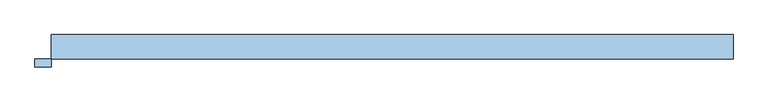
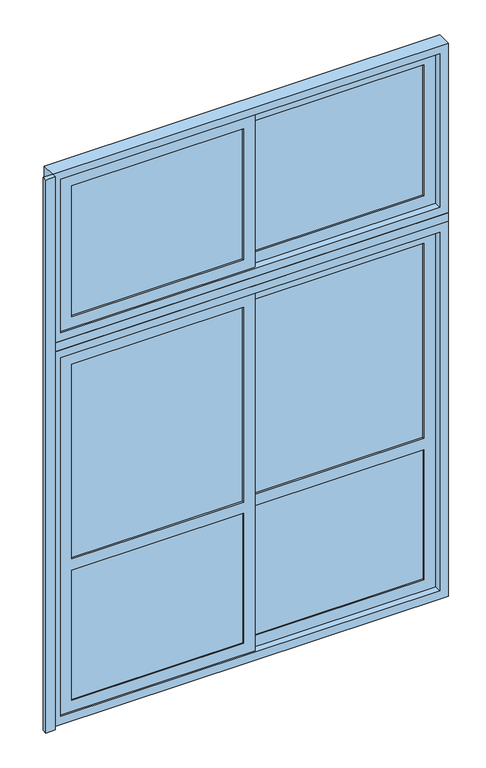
"""IFC4 building model written with IfcOpenShell, lengths in millimetres: window geometry, A7 Ventana_Corrediza_PC_2 hojas : A7.2 Ventana_Corrediza_PC_2 hojas 210x310."""

from ifc_helpers import new_model, si_unit, frame, origin, origin_with_axes, place, context, project, spatial, polyline, outline, extrude, source, transform, mapped, element, save


def window_62d1e696(model_context):
    return source(origin(), model_context, "Body", "SweptSolid", [
        extrude(outline(polyline([(-31.5, 28.0), (-942.0, 28.0), (-942.0, 44.0), (-31.5, 44.0), (-31.5, 28.0)])), frame((0.0, 0.0, 108.0), z_axis=(0.0, 0.0, 1.0), x_axis=(1.0, 0.0, 0.0)), (0.0, 0.0, 1.0), 728.0),
        extrude(outline(polyline([(942.0, 56.0), (31.5, 56.0), (31.5, 72.0), (942.0, 72.0), (942.0, 56.0)])), frame((0.0, 0.0, 108.0), z_axis=(0.0, 0.0, 1.0), x_axis=(1.0, 0.0, 0.0)), (0.0, 0.0, 1.0), 728.0),
        extrude(outline(polyline([(-31.5, 31.5769719), (-942.0, 31.5769719), (-942.0, 40.4230281), (-31.5, 40.4230281), (-31.5, 31.5769719)])), frame((0.0, 0.0, 2258.0), z_axis=(0.0, 0.0, 1.0), x_axis=(1.0, 0.0, 0.0)), (0.0, 0.0, 1.0), 734.0),
        extrude(outline(polyline([(-31.5, 31.5769719), (-942.0, 31.5769719), (-942.0, 40.4230281), (-31.5, 40.4230281), (-31.5, 31.5769719)])), frame((0.0, 0.0, 900.0), z_axis=(0.0, 0.0, 1.0), x_axis=(1.0, 0.0, 0.0)), (0.0, 0.0, 1.0), 1092.0),
        extrude(outline(polyline([(942.0, 59.5769719), (31.5, 59.5769719), (31.5, 68.4230281), (942.0, 68.4230281), (942.0, 59.5769719)])), frame((0.0, 0.0, 2258.0), z_axis=(0.0, 0.0, 1.0), x_axis=(1.0, 0.0, 0.0)), (0.0, 0.0, 1.0), 734.0),
        extrude(outline(polyline([(942.0, 59.5769719), (31.5, 59.5769719), (31.5, 68.4230281), (942.0, 68.4230281), (942.0, 59.5769719)])), frame((0.0, 0.0, 900.0), z_axis=(0.0, 0.0, 1.0), x_axis=(1.0, 0.0, 0.0)), (0.0, 0.0, 1.0), 1092.0),
        extrude(outline(polyline([(45.0, -1005.0), (45.0, 31.5), (2055.0, 31.5), (2055.0, -1005.0), (45.0, -1005.0)]), holes=[polyline([(900.0, -942.0), (1992.0, -942.0), (1992.0, -31.5), (900.0, -31.5), (900.0, -942.0)]), polyline([(108.0, -942.0), (836.0, -942.0), (836.0, -31.5), (108.0, -31.5), (108.0, -942.0)])]), frame((0.0, 22.0, 0.0), z_axis=(0.0, 1.0, 0.0), x_axis=(0.0, 0.0, 1.0)), (0.0, 0.0, 1.0), 28.0),
        extrude(outline(polyline([(3055.0, -1005.0), (2195.0, -1005.0), (2195.0, 31.5), (3055.0, 31.5), (3055.0, -1005.0)]), holes=[polyline([(2258.0, -942.0), (2992.0, -942.0), (2992.0, -31.5), (2258.0, -31.5), (2258.0, -942.0)])]), frame((0.0, 22.0, 0.0), z_axis=(0.0, 1.0, 0.0), x_axis=(0.0, 0.0, 1.0)), (0.0, 0.0, 1.0), 28.0),
        extrude(outline(polyline([(2055.0, 1005.0), (2055.0, -31.5), (45.0, -31.5), (45.0, 1005.0), (2055.0, 1005.0)]), holes=[polyline([(1992.0, 31.5), (1992.0, 942.0), (900.0, 942.0), (900.0, 31.5), (1992.0, 31.5)]), polyline([(836.0, 31.5), (836.0, 942.0), (108.0, 942.0), (108.0, 31.5), (836.0, 31.5)])]), frame((0.0, 50.0, 0.0), z_axis=(0.0, 1.0, 0.0), x_axis=(0.0, 0.0, 1.0)), (0.0, 0.0, 1.0), 28.0),
        extrude(outline(polyline([(2195.0, -31.5), (2195.0, 1005.0), (3055.0, 1005.0), (3055.0, -31.5), (2195.0, -31.5)]), holes=[polyline([(2992.0, 31.5), (2992.0, 942.0), (2258.0, 942.0), (2258.0, 31.5), (2992.0, 31.5)])]), frame((0.0, 50.0, 0.0), z_axis=(0.0, 1.0, 0.0), x_axis=(0.0, 0.0, 1.0)), (0.0, 0.0, 1.0), 28.0),
        extrude(outline(polyline([(2100.0, -1050.0), (0.0, -1050.0), (0.0, 1050.0), (2100.0, 1050.0), (2100.0, -1050.0)]), holes=[polyline([(2055.0, -1005.0), (2055.0, 1005.0), (45.0, 1005.0), (45.0, -1005.0), (2055.0, -1005.0)])]), frame((0.0, 12.5, 0.0), z_axis=(0.0, 1.0, 0.0), x_axis=(0.0, 0.0, 1.0)), (0.0, 0.0, 1.0), 75.0),
        extrude(outline(polyline([(3100.0, -1050.0), (2150.0, -1050.0), (2150.0, 1050.0), (3100.0, 1050.0), (3100.0, -1050.0)]), holes=[polyline([(3055.0, -1005.0), (3055.0, 1005.0), (2195.0, 1005.0), (2195.0, -1005.0), (3055.0, -1005.0)])]), frame((0.0, 12.5, 0.0), z_axis=(0.0, 1.0, 0.0), x_axis=(0.0, 0.0, 1.0)), (0.0, 0.0, 1.0), 75.0),
        extrude(outline(polyline([(1050.0, 12.5), (-1050.0, 12.5), (-1050.0, 87.5), (1050.0, 87.5), (1050.0, 12.5)])), frame((0.0, 0.0, 2100.0), z_axis=(0.0, 0.0, 1.0), x_axis=(1.0, 0.0, 0.0)), (0.0, 0.0, 1.0), 50.0),
        extrude(outline(polyline([(-1050.0, -12.5), (-1100.0, -12.5), (-1100.0, 12.5), (-1050.0, 12.5), (-1050.0, -12.5)])), origin_with_axes(), (0.0, 0.0, 1.0), 3100.0),
    ])


if __name__ == "__main__":
    model = new_model("IFC4")
    model_context = context("Model", 3, world=origin())
    ifc_project = project(units=[si_unit("LENGTHUNIT", "METRE", prefix="MILLI")], contexts=[model_context])
    site = spatial("IfcSite", under=ifc_project)
    building = spatial("IfcBuilding", under=site)
    placement = place(None, origin())
    window_shape = window_62d1e696(model_context)
    element("IfcWindow", 1, ObjectType="A7 Ventana_Corrediza_PC_2 hojas : A7.2 Ventana_Corrediza_PC_2 hojas 210x310", at=placement, inside=building, context=model_context, shape_type="MappedRepresentation", body=[
        mapped(window_shape, transform((0.0, 0.0, 0.0), x_axis=(1.0, 0.0, 0.0), y_axis=(0.0, 1.0, 0.0), z_axis=(0.0, 0.0, 1.0))),
    ])
    save(model, "model.ifc")
